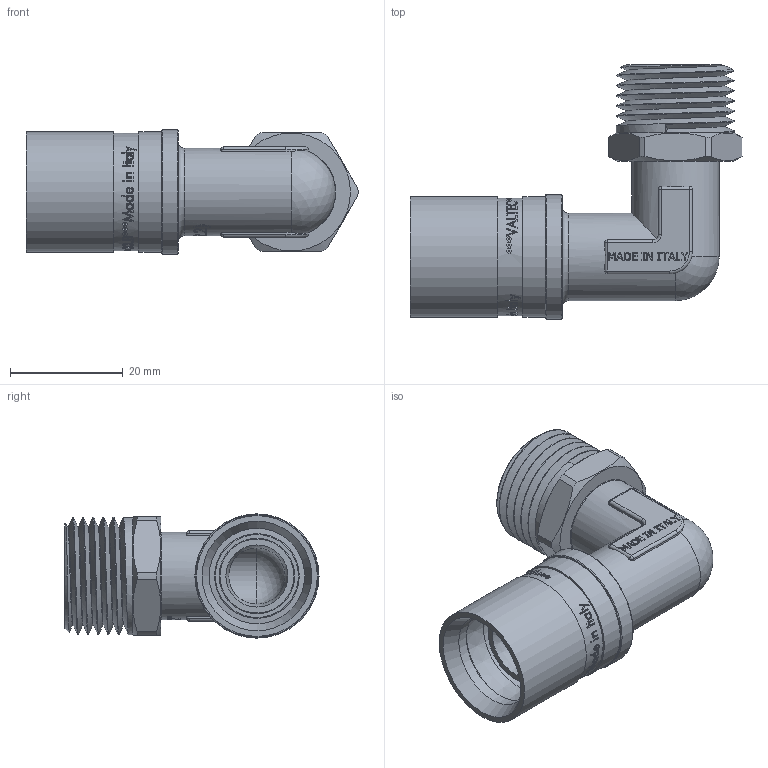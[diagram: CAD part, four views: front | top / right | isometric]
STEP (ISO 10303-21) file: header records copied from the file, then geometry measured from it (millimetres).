
FILE_DESCRIPTION(/* description */ (''),/* implementation_level */ '2;1');
FILE_NAME(/* name */ 'F:\Артём\00000\Работа удаленка\Аксеальные фитинги\VTm.453.BG.001604.stp',/* time_stamp */ '2021-01-27T11:30:42+03:00',/* author */ ('almis'),/* organization */ (''),/* preprocessor_version */ 'ST-DEVELOPER v18',/* originating_system */ 'Autodesk Inventor 2020',/* authorisation */ '');
FILE_SCHEMA (('AUTOMOTIVE_DESIGN { 1 0 10303 214 3 1 1 }'));
Length unit declared in the file: millimetre
Products named in the file (1): VTm.451.BG.001616
Bounding box: 58.81 x 45 x 22 mm (x, y, z)
Volume: 11778.9 mm3; surface area: 11120.3 mm2
Topology: 1 solids, 1 shells, 1077 faces, 2938 edges, 1959 vertices
Faces by surface type: plane 443, bspline 443, cylinder 140, torus 28, cone 13, sphere 10
Full cylindrical faces by diameter (mm): 10 x2, 12.8 x5, 13.4 x4, 15 x1, 15.5 x3, 16.9 x2, 17.3 x8, 20.8 x1, 20.9 x5, 21.4 x2, 22 x1
Entity records: 43764 total; most frequent: CARTESIAN_POINT 19143, ORIENTED_EDGE 5876, DIRECTION 3753, EDGE_CURVE 2938, VERTEX_POINT 1959, LINE 1487, VECTOR 1487, EDGE_LOOP 1175
